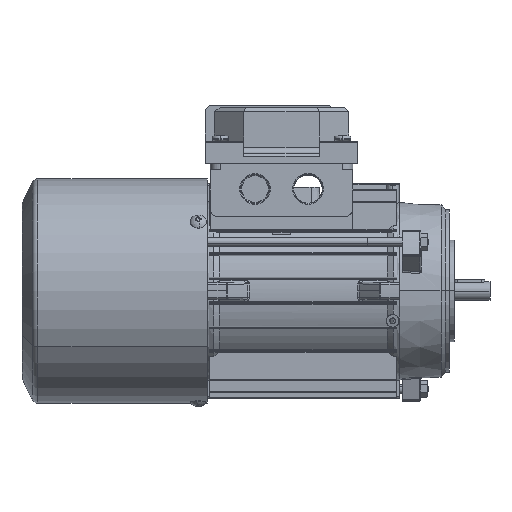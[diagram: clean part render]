
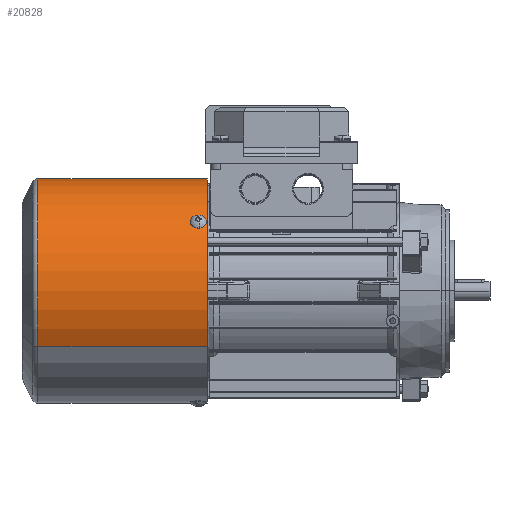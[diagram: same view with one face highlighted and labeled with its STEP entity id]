
A CAD part, top view. The second image highlights one B-rep face of the part: STEP entity #20828.
In plain terms, the highlighted cylindrical face has radius 55 mm (diameter 110 mm), a partial arc.
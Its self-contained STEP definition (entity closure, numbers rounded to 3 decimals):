
#74 = CARTESIAN_POINT ( 'NONE',  ( 22.294, 87.556, 50.279 ) ) ;
#291 = CARTESIAN_POINT ( 'NONE',  ( 19.976, 88.493, 51.244 ) ) ;
#1852 = CARTESIAN_POINT ( 'NONE',  ( -55., 91., 0. ) ) ;
#1934 = VERTEX_POINT ( 'NONE', #41839 ) ;
#2383 = AXIS2_PLACEMENT_3D ( 'NONE', #12516, #17848, #38720 ) ;
#3300 = VERTEX_POINT ( 'NONE', #5134 ) ;
#3737 = CARTESIAN_POINT ( 'NONE',  ( 19.62, 84.665, 51.382 ) ) ;
#3982 = CARTESIAN_POINT ( 'NONE',  ( 22.281, 85.446, 50.285 ) ) ;
#5134 = CARTESIAN_POINT ( 'NONE',  ( 55., 91., 0. ) ) ;
#5399 = CARTESIAN_POINT ( 'NONE',  ( 21.885, 88.081, 50.459 ) ) ;
#5627 = CARTESIAN_POINT ( 'NONE',  ( 19.626, 88.324, 51.379 ) ) ;
#7087 = EDGE_LOOP ( 'NONE', ( #56889, #63694, #23945, #23009 ) ) ;
#7603 = CARTESIAN_POINT ( 'NONE',  ( -55., 139.861, 0. ) ) ;
#8842 = ORIENTED_EDGE ( 'NONE', *, *, #48549, .F. ) ;
#9117 = CARTESIAN_POINT ( 'NONE',  ( 20.349, 84.4, 51.098 ) ) ;
#9363 = CARTESIAN_POINT ( 'NONE',  ( 22.438, 85.824, 50.215 ) ) ;
#9691 = EDGE_CURVE ( 'NONE', #45361, #30763, #25302, .T. ) ;
#10787 = CARTESIAN_POINT ( 'NONE',  ( 21.576, 88.322, 50.591 ) ) ;
#11009 = CARTESIAN_POINT ( 'NONE',  ( 19.311, 88.083, 51.499 ) ) ;
#11372 = VECTOR ( 'NONE', #44636, 1000. ) ;
#12516 = CARTESIAN_POINT ( 'NONE',  ( 0., 139.861, 0. ) ) ;
#14224 = CARTESIAN_POINT ( 'NONE',  ( 18.641, 86.361, 51.745 ) ) ;
#14432 = CARTESIAN_POINT ( 'NONE',  ( 20.858, 84.414, 50.891 ) ) ;
#14671 = CARTESIAN_POINT ( 'NONE',  ( 22.523, 86.224, 50.177 ) ) ;
#15418 = VERTEX_POINT ( 'NONE', #1852 ) ;
#15999 = FACE_BOUND ( 'NONE', #54786, .T. ) ;
#16106 = CARTESIAN_POINT ( 'NONE',  ( 21.231, 88.492, 50.737 ) ) ;
#16326 = CARTESIAN_POINT ( 'NONE',  ( 19.048, 87.784, 51.596 ) ) ;
#17848 = DIRECTION ( 'NONE',  ( 0., 1., 0. ) ) ;
#19544 = CARTESIAN_POINT ( 'NONE',  ( 18.704, 85.956, 51.722 ) ) ;
#19786 = CARTESIAN_POINT ( 'NONE',  ( 21.228, 84.507, 50.738 ) ) ;
#20027 = CARTESIAN_POINT ( 'NONE',  ( 22.535, 86.5, 50.171 ) ) ;
#20828 = ADVANCED_FACE ( 'NONE', ( #15999, #54882 ), #53283, .T. ) ;
#21409 = CARTESIAN_POINT ( 'NONE',  ( 20.86, 88.586, 50.891 ) ) ;
#21637 = CARTESIAN_POINT ( 'NONE',  ( 18.842, 87.432, 51.672 ) ) ;
#23009 = ORIENTED_EDGE ( 'NONE', *, *, #28118, .F. ) ;
#23945 = ORIENTED_EDGE ( 'NONE', *, *, #50829, .F. ) ;
#24395 = CARTESIAN_POINT ( 'NONE',  ( 18.654, 86.225, 51.74 ) ) ;
#24771 = CARTESIAN_POINT ( 'NONE',  ( 22.535, 86.5, 50.171 ) ) ;
#24860 = CARTESIAN_POINT ( 'NONE',  ( 18.841, 85.569, 51.672 ) ) ;
#25097 = CARTESIAN_POINT ( 'NONE',  ( 21.576, 84.678, 50.591 ) ) ;
#25302 = B_SPLINE_CURVE_WITH_KNOTS ( 'NONE', 3,
 ( #51287, #14224, #24395, #19544, #56571, #24860, #61893, #30178, #67187, #35545, #3737, #40843, #9117, #46147, #14432, #51521, #19786, #56785, #25097, #62132, #30419, #67419, #35782, #3982, #41067, #9363, #46394, #14671, #51744, #20027 ),
 .UNSPECIFIED., .F., .F.,
 ( 4, 2, 2, 2, 2, 2, 2, 2, 2, 2, 2, 2, 2, 2, 4 ),
 ( 0., 0., 0.001, 0.001, 0.002, 0.002, 0.003, 0.004, 0.004, 0.005, 0.005, 0.005, 0.006, 0.006, 0.007 ),
 .UNSPECIFIED. ) ;
#25589 = DIRECTION ( 'NONE',  ( 0., 1., 0. ) ) ;
#26518 = CARTESIAN_POINT ( 'NONE',  ( 22.523, 86.773, 50.177 ) ) ;
#26751 = CARTESIAN_POINT ( 'NONE',  ( 20.477, 88.6, 51.046 ) ) ;
#26946 = DIRECTION ( 'NONE',  ( 0., 1., 0. ) ) ;
#26973 = CARTESIAN_POINT ( 'NONE',  ( 18.641, 86.777, 51.745 ) ) ;
#28118 = EDGE_CURVE ( 'NONE', #1934, #15418, #65982, .T. ) ;
#30178 = CARTESIAN_POINT ( 'NONE',  ( 19.045, 85.22, 51.597 ) ) ;
#30419 = CARTESIAN_POINT ( 'NONE',  ( 21.882, 84.917, 50.46 ) ) ;
#30763 = VERTEX_POINT ( 'NONE', #24771 ) ;
#31856 = CARTESIAN_POINT ( 'NONE',  ( 22.437, 87.177, 50.215 ) ) ;
#32080 = CARTESIAN_POINT ( 'NONE',  ( 20.1, 88.533, 51.196 ) ) ;
#32691 = DIRECTION ( 'NONE',  ( 0., 1., 0. ) ) ;
#35127 = CARTESIAN_POINT ( 'NONE',  ( 55., 7.792, 0. ) ) ;
#35545 = CARTESIAN_POINT ( 'NONE',  ( 19.401, 84.821, 51.465 ) ) ;
#35782 = CARTESIAN_POINT ( 'NONE',  ( 22.142, 85.219, 50.346 ) ) ;
#37189 = CARTESIAN_POINT ( 'NONE',  ( 22.151, 87.79, 50.343 ) ) ;
#37425 = CARTESIAN_POINT ( 'NONE',  ( 19.738, 88.388, 51.336 ) ) ;
#38720 = DIRECTION ( 'NONE',  ( -1., 0., 0. ) ) ;
#40494 = LINE ( 'NONE', #59045, #65299 ) ;
#40843 = CARTESIAN_POINT ( 'NONE',  ( 20.092, 84.455, 51.2 ) ) ;
#41067 = CARTESIAN_POINT ( 'NONE',  ( 22.341, 85.569, 50.258 ) ) ;
#41089 = AXIS2_PLACEMENT_3D ( 'NONE', #57291, #25589, #62613 ) ;
#41839 = CARTESIAN_POINT ( 'NONE',  ( -55., 7.792, 0. ) ) ;
#42255 = CARTESIAN_POINT ( 'NONE',  ( 22.535, 86.5, 50.171 ) ) ;
#42488 = CARTESIAN_POINT ( 'NONE',  ( 21.786, 88.169, 50.501 ) ) ;
#42703 = CARTESIAN_POINT ( 'NONE',  ( 19.412, 88.171, 51.46 ) ) ;
#44636 = DIRECTION ( 'NONE',  ( 0., 1., 0. ) ) ;
#45361 = VERTEX_POINT ( 'NONE', #51494 ) ;
#46147 = CARTESIAN_POINT ( 'NONE',  ( 20.73, 84.4, 50.944 ) ) ;
#46394 = CARTESIAN_POINT ( 'NONE',  ( 22.474, 85.955, 50.199 ) ) ;
#47595 = CARTESIAN_POINT ( 'NONE',  ( 22.535, 86.637, 50.171 ) ) ;
#47813 = CARTESIAN_POINT ( 'NONE',  ( 21.465, 88.387, 50.639 ) ) ;
#48044 = CARTESIAN_POINT ( 'NONE',  ( 19.129, 87.889, 51.566 ) ) ;
#48549 = EDGE_CURVE ( 'NONE', #30763, #45361, #55320, .T. ) ;
#50829 = EDGE_CURVE ( 'NONE', #15418, #3300, #55340, .T. ) ;
#51287 = CARTESIAN_POINT ( 'NONE',  ( 18.641, 86.5, 51.745 ) ) ;
#51494 = CARTESIAN_POINT ( 'NONE',  ( 18.641, 86.5, 51.745 ) ) ;
#51521 = CARTESIAN_POINT ( 'NONE',  ( 21.107, 84.467, 50.789 ) ) ;
#51744 = CARTESIAN_POINT ( 'NONE',  ( 22.535, 86.363, 50.171 ) ) ;
#53161 = CARTESIAN_POINT ( 'NONE',  ( 21.108, 88.533, 50.789 ) ) ;
#53283 = CYLINDRICAL_SURFACE ( 'NONE', #2383, 55. ) ;
#53386 = CARTESIAN_POINT ( 'NONE',  ( 18.903, 87.554, 51.649 ) ) ;
#54589 = ORIENTED_EDGE ( 'NONE', *, *, #9691, .F. ) ;
#54786 = EDGE_LOOP ( 'NONE', ( #54589, #8842 ) ) ;
#54882 = FACE_OUTER_BOUND ( 'NONE', #7087, .T. ) ;
#55320 = B_SPLINE_CURVE_WITH_KNOTS ( 'NONE', 3,
 ( #42255, #47595, #26518, #63549, #31856, #74, #37189, #5399, #42488, #10787, #47813, #16106, #53161, #21409, #58449, #26751, #63783, #32080, #291, #37425, #5627, #42703, #11009, #48044, #16326, #53386, #21637, #58661, #26973, #64001 ),
 .UNSPECIFIED., .F., .F.,
 ( 4, 2, 2, 2, 2, 2, 2, 2, 2, 2, 2, 2, 2, 2, 4 ),
 ( 0.007, 0.007, 0.007, 0.008, 0.009, 0.009, 0.009, 0.01, 0.01, 0.011, 0.011, 0.011, 0.012, 0.012, 0.013 ),
 .UNSPECIFIED. ) ;
#55340 = CIRCLE ( 'NONE', #56119, 55. ) ;
#56119 = AXIS2_PLACEMENT_3D ( 'NONE', #58641, #26946, #63983 ) ;
#56571 = CARTESIAN_POINT ( 'NONE',  ( 18.742, 85.823, 51.708 ) ) ;
#56785 = CARTESIAN_POINT ( 'NONE',  ( 21.463, 84.612, 50.64 ) ) ;
#56889 = ORIENTED_EDGE ( 'NONE', *, *, #68716, .T. ) ;
#57291 = CARTESIAN_POINT ( 'NONE',  ( 0., 7.792, 0. ) ) ;
#58449 = CARTESIAN_POINT ( 'NONE',  ( 20.733, 88.6, 50.943 ) ) ;
#58641 = CARTESIAN_POINT ( 'NONE',  ( 0., 91., 0. ) ) ;
#58661 = CARTESIAN_POINT ( 'NONE',  ( 18.694, 87.053, 51.726 ) ) ;
#59045 = CARTESIAN_POINT ( 'NONE',  ( 55., 139.861, 0. ) ) ;
#59890 = EDGE_CURVE ( 'NONE', #62607, #3300, #40494, .T. ) ;
#61893 = CARTESIAN_POINT ( 'NONE',  ( 18.902, 85.448, 51.65 ) ) ;
#62132 = CARTESIAN_POINT ( 'NONE',  ( 21.785, 84.83, 50.502 ) ) ;
#62607 = VERTEX_POINT ( 'NONE', #35127 ) ;
#62613 = DIRECTION ( 'NONE',  ( -1., 0., 0. ) ) ;
#63549 = CARTESIAN_POINT ( 'NONE',  ( 22.474, 87.044, 50.199 ) ) ;
#63694 = ORIENTED_EDGE ( 'NONE', *, *, #59890, .T. ) ;
#63783 = CARTESIAN_POINT ( 'NONE',  ( 20.349, 88.587, 51.097 ) ) ;
#63983 = DIRECTION ( 'NONE',  ( -1., 0., 0. ) ) ;
#64001 = CARTESIAN_POINT ( 'NONE',  ( 18.641, 86.5, 51.745 ) ) ;
#65299 = VECTOR ( 'NONE', #32691, 1000. ) ;
#65982 = LINE ( 'NONE', #7603, #11372 ) ;
#66984 = CIRCLE ( 'NONE', #41089, 55. ) ;
#67187 = CARTESIAN_POINT ( 'NONE',  ( 19.128, 85.112, 51.567 ) ) ;
#67419 = CARTESIAN_POINT ( 'NONE',  ( 22.062, 85.113, 50.381 ) ) ;
#68716 = EDGE_CURVE ( 'NONE', #1934, #62607, #66984, .T. ) ;
